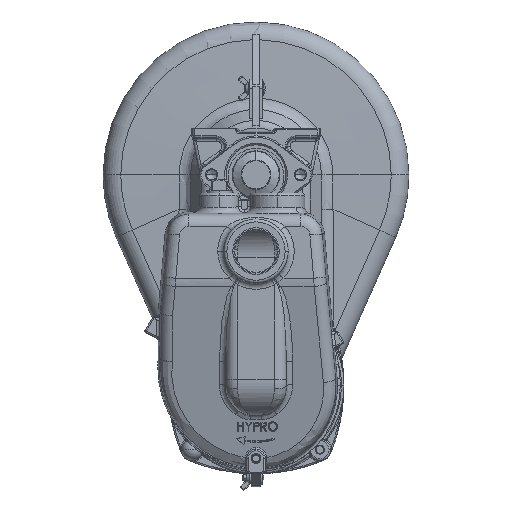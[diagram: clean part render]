
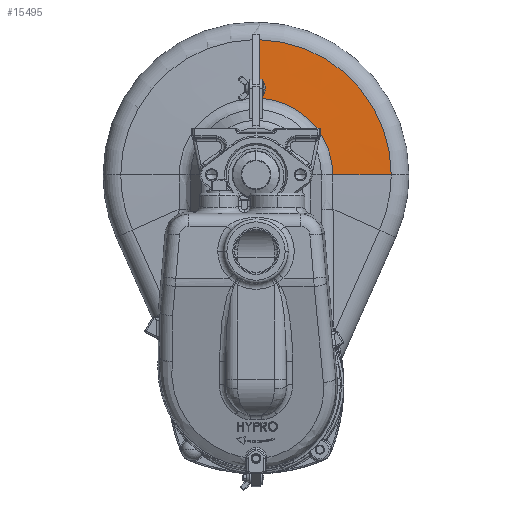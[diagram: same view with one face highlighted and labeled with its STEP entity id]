
A CAD part, top view. The second image highlights one B-rep face of the part: STEP entity #15495.
In plain terms, the highlighted conical face has half-angle 88 degrees and reference radius 158.75 mm.
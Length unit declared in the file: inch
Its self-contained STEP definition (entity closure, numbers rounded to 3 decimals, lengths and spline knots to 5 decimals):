
#3861 = AXIS2_PLACEMENT_3D ( 'NONE', #113325, #113323, #113321 ) ;
#3995 = VERTEX_POINT ( 'NONE', #93287 ) ;
#8055 = CARTESIAN_POINT ( 'NONE',  ( 0.255, 12.535, -3.08208 ) ) ;
#8174 = CARTESIAN_POINT ( 'NONE',  ( 0.13, 12.535, -3.08186 ) ) ;
#8235 = CARTESIAN_POINT ( 'NONE',  ( 3.13776, 8.625, -3.05482 ) ) ;
#8247 = CARTESIAN_POINT ( 'NONE',  ( 0.255, 11.75238, -3.05482 ) ) ;
#15495 = ADVANCED_FACE ( 'NONE', ( #26204 ), #26222, .T. ) ;
#26204 = FACE_OUTER_BOUND ( 'NONE', #37095, .T. ) ;
#26222 = CONICAL_SURFACE ( 'NONE', #3861, 6.25, 1.536 ) ;
#30797 = B_SPLINE_CURVE_WITH_KNOTS ( 'NONE', 3,
 ( #54541, #54540, #54554, #54556 ),
 .UNSPECIFIED., .F., .F.,
 ( 4, 4 ),
 ( 0.05054, 0.07044 ),
 .UNSPECIFIED. ) ;
#30799 = B_SPLINE_CURVE_WITH_KNOTS ( 'NONE', 3,
 ( #54514, #54534, #54542, #54543, #54545, #54547, #54548 ),
 .UNSPECIFIED., .F., .F.,
 ( 4, 3, 4 ),
 ( 0.00711, 0.00751, 0.01028 ),
 .UNSPECIFIED. ) ;
#30802 = B_SPLINE_CURVE_WITH_KNOTS ( 'NONE', 3,
 ( #54526, #54528, #54536, #54538 ),
 .UNSPECIFIED., .F., .F.,
 ( 4, 4 ),
 ( 0.09937, 0.14041 ),
 .UNSPECIFIED. ) ;
#37095 = EDGE_LOOP ( 'NONE', ( #92619, #92621, #92623, #92625, #92627, #92629 ) ) ;
#54505 = CARTESIAN_POINT ( 'NONE',  ( 6.25, 8.625, -3.1635 ) ) ;
#54507 = DIRECTION ( 'NONE',  ( 0.999, 0., -0.035 ) ) ;
#54514 = CARTESIAN_POINT ( 'NONE',  ( 0.255, 12.535, -3.08208 ) ) ;
#54517 = CARTESIAN_POINT ( 'NONE',  ( 0., 8.625, -3.05482 ) ) ;
#54519 = DIRECTION ( 'NONE',  ( 0., 0., 1. ) ) ;
#54521 = DIRECTION ( 'NONE',  ( 1., 0., 0. ) ) ;
#54526 = CARTESIAN_POINT ( 'NONE',  ( 0.13, 12.535, -3.08186 ) ) ;
#54528 = CARTESIAN_POINT ( 'NONE',  ( 0.13, 13.07322, -3.10065 ) ) ;
#54530 = CARTESIAN_POINT ( 'NONE',  ( 0., 8.625, -3.13822 ) ) ;
#54532 = DIRECTION ( 'NONE',  ( 0., 0., -1. ) ) ;
#54533 = DIRECTION ( 'NONE',  ( -1., 0., 0. ) ) ;
#54534 = CARTESIAN_POINT ( 'NONE',  ( 0.24978, 12.535, -3.08206 ) ) ;
#54536 = CARTESIAN_POINT ( 'NONE',  ( 0.13, 13.61143, -3.11943 ) ) ;
#54538 = CARTESIAN_POINT ( 'NONE',  ( 0.13, 14.14965, -3.13822 ) ) ;
#54540 = CARTESIAN_POINT ( 'NONE',  ( 0.255, 12.27413, -3.07298 ) ) ;
#54541 = CARTESIAN_POINT ( 'NONE',  ( 0.255, 12.535, -3.08208 ) ) ;
#54542 = CARTESIAN_POINT ( 'NONE',  ( 0.24457, 12.535, -3.08205 ) ) ;
#54543 = CARTESIAN_POINT ( 'NONE',  ( 0.23935, 12.535, -3.08204 ) ) ;
#54545 = CARTESIAN_POINT ( 'NONE',  ( 0.2029, 12.535, -3.08196 ) ) ;
#54547 = CARTESIAN_POINT ( 'NONE',  ( 0.16645, 12.535, -3.0819 ) ) ;
#54548 = CARTESIAN_POINT ( 'NONE',  ( 0.13, 12.535, -3.08186 ) ) ;
#54554 = CARTESIAN_POINT ( 'NONE',  ( 0.255, 12.01325, -3.0639 ) ) ;
#54556 = CARTESIAN_POINT ( 'NONE',  ( 0.255, 11.75238, -3.05482 ) ) ;
#63545 = CARTESIAN_POINT ( 'NONE',  ( 0.13, 14.14965, -3.13822 ) ) ;
#75002 = AXIS2_PLACEMENT_3D ( 'NONE', #54517, #54519, #54521 ) ;
#75003 = AXIS2_PLACEMENT_3D ( 'NONE', #54530, #54532, #54533 ) ;
#75841 = CIRCLE ( 'NONE', #75003, 5.52617 ) ;
#75845 = CIRCLE ( 'NONE', #75002, 3.13776 ) ;
#75847 = LINE ( 'NONE', #54505, #75851 ) ;
#75851 = VECTOR ( 'NONE', #54507, 39.37008 ) ;
#77032 = VERTEX_POINT ( 'NONE', #63545 ) ;
#77774 = VERTEX_POINT ( 'NONE', #8055 ) ;
#77845 = VERTEX_POINT ( 'NONE', #8174 ) ;
#77880 = VERTEX_POINT ( 'NONE', #8235 ) ;
#77887 = VERTEX_POINT ( 'NONE', #8247 ) ;
#92619 = ORIENTED_EDGE ( 'NONE', *, *, #96399, .F. ) ;
#92621 = ORIENTED_EDGE ( 'NONE', *, *, #96401, .T. ) ;
#92623 = ORIENTED_EDGE ( 'NONE', *, *, #96403, .F. ) ;
#92625 = ORIENTED_EDGE ( 'NONE', *, *, #96405, .F. ) ;
#92627 = ORIENTED_EDGE ( 'NONE', *, *, #96407, .F. ) ;
#92629 = ORIENTED_EDGE ( 'NONE', *, *, #96409, .T. ) ;
#93287 = CARTESIAN_POINT ( 'NONE',  ( 5.52617, 8.625, -3.13822 ) ) ;
#96399 = EDGE_CURVE ( 'NONE', #77880, #77887, #75845, .T. ) ;
#96401 = EDGE_CURVE ( 'NONE', #77880, #3995, #75847, .T. ) ;
#96403 = EDGE_CURVE ( 'NONE', #77032, #3995, #75841, .T. ) ;
#96405 = EDGE_CURVE ( 'NONE', #77845, #77032, #30802, .T. ) ;
#96407 = EDGE_CURVE ( 'NONE', #77774, #77845, #30799, .T. ) ;
#96409 = EDGE_CURVE ( 'NONE', #77774, #77887, #30797, .T. ) ;
#113321 = DIRECTION ( 'NONE',  ( 1., 0., 0. ) ) ;
#113323 = DIRECTION ( 'NONE',  ( 0., 0., -1. ) ) ;
#113325 = CARTESIAN_POINT ( 'NONE',  ( 0., 8.625, -3.1635 ) ) ;
